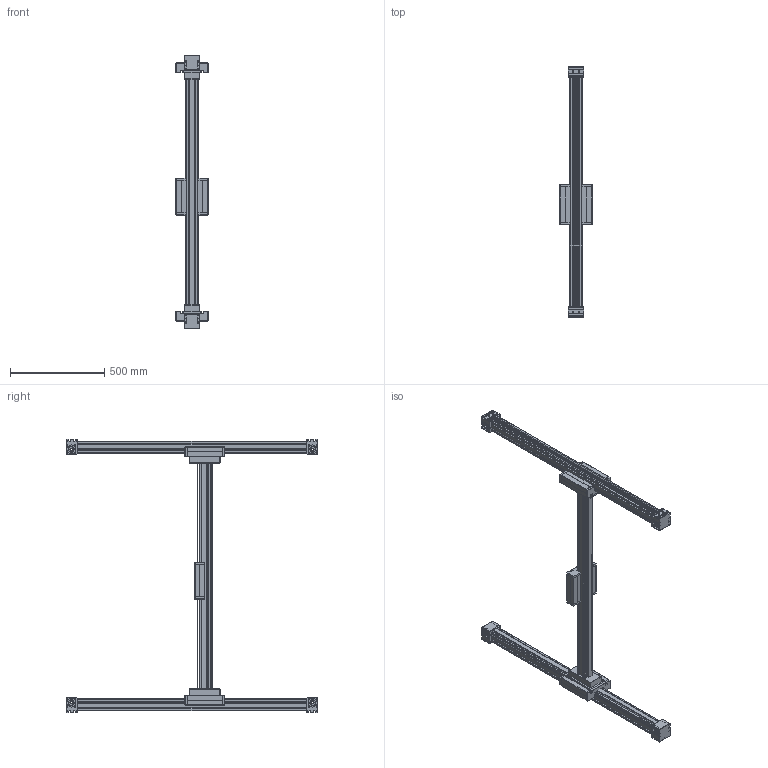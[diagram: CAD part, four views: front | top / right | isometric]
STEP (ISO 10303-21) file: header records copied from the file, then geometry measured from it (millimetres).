
FILE_DESCRIPTION (( 'STEP AP214' ), '1' );
FILE_NAME ('ELZU-60S.STEP', '2016-01-14T10:13:59', ( 'admin' ), ( '' ), 'SwSTEP 2.0', 'SolidWorks 2015', '' );
FILE_SCHEMA (( 'AUTOMOTIVE_DESIGN' ));
Length unit declared in the file: millimetre
Products named in the file (12): Kopie von Bahr-ELZU-X-Axis - ELZU-60S70000411450,  Y-Axis - ELZU-60S80000411330_Belt (X)^ELZU 60 S; Kopie von Bahr-ELZU-X-Axis - ELZU-60S70000411450,  Y-Axis - ELZU-60S80000411330_Belt (Y)^ELZU 60 S; Kopie von Bahr-ELZU-X-Axis - ELZU-60S70000411450,  Y-Axis - ELZU-60S80000411330_End_Block(4)^ELZU 60 S_ELZ-60S-B; Kopie von Bahr-ELZU-X-Axis - ELZU-60S70000411450,  Y-Axis - ELZU-60S80000411330_End_Block(3)^ELZU 60 S_ELZ-60S-A; Kopie von Bahr-ELZU-X-Axis - ELZU-60S70000411450,  Y-Axis - ELZU-60S80000411330_End_Block(2)^ELZU 60 S_ELZ-60S-A; Kopie von Bahr-ELZU-X-Axis - ELZU-60S70000411450,  Y-Axis - ELZU-60S80000411330_End_Block(1)^ELZU 60 S_ELZ-60S-B; ELZU-60S; Umlenkung ELZU 60S - ED; Kopie von Bahr-ELZU-X-Axis - ELZU-60S70000411450,  Y-Axis - ELZU-60S80000411330_ELZ60S Carriage (X)^ELZU 60 S_A; Kopie von Bahr-ELZU-X-Axis - ELZU-60S70000411450,  Y-Axis - ELZU-60S80000411330_ELZ60S Carriage (Y)^ELZU 60 S_A; Kopie von Bahr-ELZU-X-Axis - ELZU-60S70000411450,  Y-Axis - ELZU-60S80000411330_ELZ60S Extrusion (X)^ELZU 60 S_0; Kopie von Bahr-ELZU-X-Axis - ELZU-60S70000411450,  Y-Axis - ELZU-60S80000411330_ELZ60S Extrusion (Y)^ELZU 60 S_0
Assembly tree (16 placements, depth 2):
  ELZU-60S
    Kopie von Bahr-ELZU-X-Axis - ELZU-60S70000411450,  Y-Axis - ELZU-60S80000411330_End_Block(1)^ELZU 60 S_ELZ-60S-B
    Kopie von Bahr-ELZU-X-Axis - ELZU-60S70000411450,  Y-Axis - ELZU-60S80000411330_End_Block(2)^ELZU 60 S_ELZ-60S-A
    Kopie von Bahr-ELZU-X-Axis - ELZU-60S70000411450,  Y-Axis - ELZU-60S80000411330_End_Block(3)^ELZU 60 S_ELZ-60S-A
    Kopie von Bahr-ELZU-X-Axis - ELZU-60S70000411450,  Y-Axis - ELZU-60S80000411330_End_Block(4)^ELZU 60 S_ELZ-60S-B
    Kopie von Bahr-ELZU-X-Axis - ELZU-60S70000411450,  Y-Axis - ELZU-60S80000411330_Belt (Y)^ELZU 60 S  x2
    Kopie von Bahr-ELZU-X-Axis - ELZU-60S70000411450,  Y-Axis - ELZU-60S80000411330_Belt (X)^ELZU 60 S  x2
    Kopie von Bahr-ELZU-X-Axis - ELZU-60S70000411450,  Y-Axis - ELZU-60S80000411330_ELZ60S Extrusion (Y)^ELZU 60 S_0  x2
    Kopie von Bahr-ELZU-X-Axis - ELZU-60S70000411450,  Y-Axis - ELZU-60S80000411330_ELZ60S Extrusion (X)^ELZU 60 S_0
    Kopie von Bahr-ELZU-X-Axis - ELZU-60S70000411450,  Y-Axis - ELZU-60S80000411330_ELZ60S Carriage (Y)^ELZU 60 S_A  x2
    Kopie von Bahr-ELZU-X-Axis - ELZU-60S70000411450,  Y-Axis - ELZU-60S80000411330_ELZ60S Carriage (X)^ELZU 60 S_A
    Umlenkung ELZU 60S - ED  x2
Bounding box: 170 x 1330 x 1450 mm (x, y, z)
Volume: 18422850.3 mm3; surface area: 2450954.1 mm2
Topology: 28 solids, 28 shells, 1161 faces, 3087 edges, 2026 vertices
Faces by surface type: plane 694, cylinder 427, torus 24, cone 8, sphere 8
Entity records: 27972 total; most frequent: DIRECTION 4836, CARTESIAN_POINT 4769, ORIENTED_EDGE 4660, EDGE_CURVE 2330, VECTOR 1630, LINE 1630, AXIS2_PLACEMENT_3D 1603, VERTEX_POINT 1536
